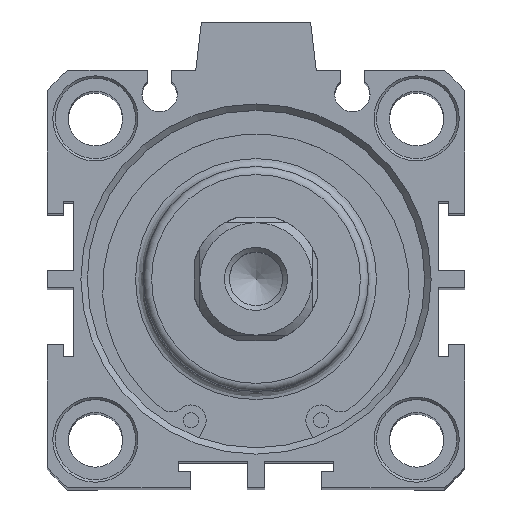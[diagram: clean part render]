
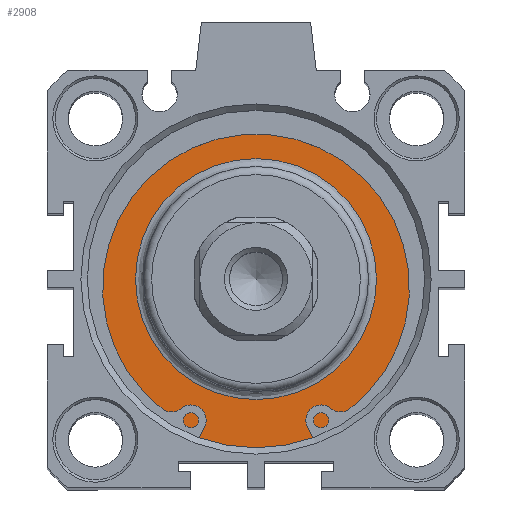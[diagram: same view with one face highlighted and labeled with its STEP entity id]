
A CAD part, top view. The second image highlights one B-rep face of the part: STEP entity #2908.
In plain terms, the highlighted planar face has unit normal (0, 0, 1).
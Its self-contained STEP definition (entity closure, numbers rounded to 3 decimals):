
#2857=CARTESIAN_POINT('',(0.598,16.555,147.4));
#2858=VERTEX_POINT('',#2857);
#2859=CARTESIAN_POINT('',(0.598,1.555,147.4));
#2860=DIRECTION('',(0.0,0.0,1.0));
#2861=DIRECTION('',(0.0,-1.0,0.0));
#2862=AXIS2_PLACEMENT_3D('',#2859,#2860,#2861);
#2863=CIRCLE('',#2862,15.);
#2864=EDGE_CURVE('',#2858,#2858,#2863,.T.);
#2889=CARTESIAN_POINT('',(0.598,19.055,147.4));
#2890=DIRECTION('',(0.0,0.0,1.0));
#2891=DIRECTION('',(1.0,0.0,0.0));
#2892=AXIS2_PLACEMENT_3D('',#2889,#2890,#2891);
#2893=PLANE('',#2892);
#2894=CARTESIAN_POINT('',(0.598,22.555,147.4));
#2895=VERTEX_POINT('',#2894);
#2896=CARTESIAN_POINT('',(0.598,1.555,147.4));
#2897=DIRECTION('',(0.0,0.0,-1.0));
#2898=DIRECTION('',(0.0,1.0,0.0));
#2899=AXIS2_PLACEMENT_3D('',#2896,#2897,#2898);
#2900=CIRCLE('',#2899,21.);
#2901=EDGE_CURVE('',#2895,#2895,#2900,.T.);
#2902=ORIENTED_EDGE('',*,*,#2901,.F.);
#2903=EDGE_LOOP('',(#2902));
#2904=FACE_OUTER_BOUND('',#2903,.T.);
#2905=ORIENTED_EDGE('',*,*,#2864,.F.);
#2906=EDGE_LOOP('',(#2905));
#2907=FACE_BOUND('',#2906,.T.);
#2908=ADVANCED_FACE('',(#2904,#2907),#2893,.T.);
